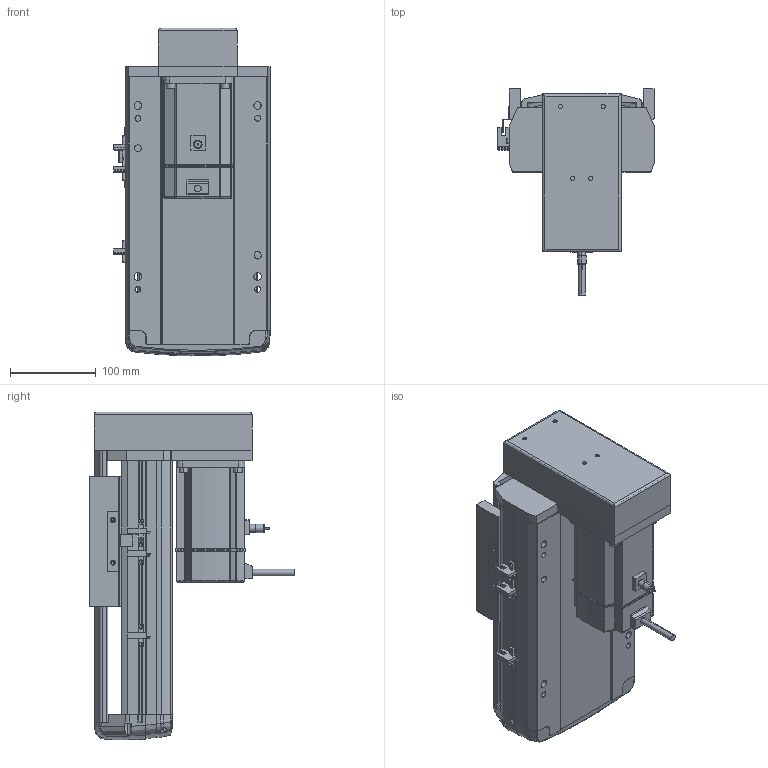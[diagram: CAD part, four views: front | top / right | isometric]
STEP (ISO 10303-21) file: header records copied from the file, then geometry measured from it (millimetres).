
FILE_DESCRIPTION (( 'STEP AP214' ), '1' );
FILE_NAME ('RTH17-XX-100-M-M75-C4.STEP', '2025-10-24T10:21:10', ( '' ), ( '' ), 'SwSTEP 2.0', 'SolidWorks 2018', '' );
FILE_SCHEMA (( 'AUTOMOTIVE_DESIGN' ));
Length unit declared in the file: millimetre
Products named in the file (10): N_M75^RTH17-XX-XX-M-M75-C4（方程式）; N_OMRON EE-SX672 換覜ん^RTH17-XX-XX-M-M75-C4ㄗ源最宒ㄘ; N_RTH17-M-007上盖^RTH17-XX-XX-M-M75-C4（方程式）; N_RTH17-M-011底座^RTH17-XX-XX-M-M75-C4（方程式）; N_RTH17-GY-001P^RTH17-XX-XX-M-M75-C4（方程式）; N_RTH17-M-018盖子^RTH17-XX-XX-M-M75-C4（方程式）; N_RTH-BL-012 感应片(外置)^RTH17-XX-XX-M-M75-C4（方程式）; RTH17-XX-100-M-M75-C4; N_RTH17-E-004丝杆螺母连接座^RTH17-XX-XX-M-M75-C4（方程式）; N_RTH17-M-008-P75电机安装板下折750W^RTH17-XX-XX-M-M75-C4（方程式）
Assembly tree (11 placements, depth 2):
  RTH17-XX-100-M-M75-C4
    N_RTH17-M-011底座^RTH17-XX-XX-M-M75-C4（方程式）
    N_RTH17-M-007上盖^RTH17-XX-XX-M-M75-C4（方程式）
    N_M75^RTH17-XX-XX-M-M75-C4（方程式）
    N_OMRON EE-SX672 換覜ん^RTH17-XX-XX-M-M75-C4ㄗ源最宒ㄘ  x3
    N_RTH-BL-012 感应片(外置)^RTH17-XX-XX-M-M75-C4（方程式）
    N_RTH17-M-008-P75电机安装板下折750W^RTH17-XX-XX-M-M75-C4（方程式）
    N_RTH17-M-018盖子^RTH17-XX-XX-M-M75-C4（方程式）
    N_RTH17-E-004丝杆螺母连接座^RTH17-XX-XX-M-M75-C4（方程式）
    N_RTH17-GY-001P^RTH17-XX-XX-M-M75-C4（方程式）
Bounding box: 183.5 x 240.7 x 383.27 mm (x, y, z)
Volume: 4044205.8 mm3; surface area: 633047.8 mm2
Topology: 10 solids, 12 shells, 1693 faces, 4634 edges, 2996 vertices
Faces by surface type: plane 822, cylinder 457, bspline 377, cone 28, torus 9
Entity records: 48483 total; most frequent: CARTESIAN_POINT 19504, ORIENTED_EDGE 6292, DIRECTION 5224, EDGE_CURVE 3150, VERTEX_POINT 2032, VECTOR 1754, LINE 1754, AXIS2_PLACEMENT_3D 1735
